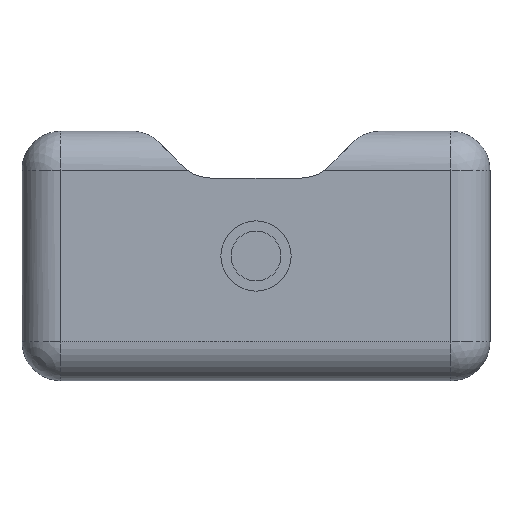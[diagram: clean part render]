
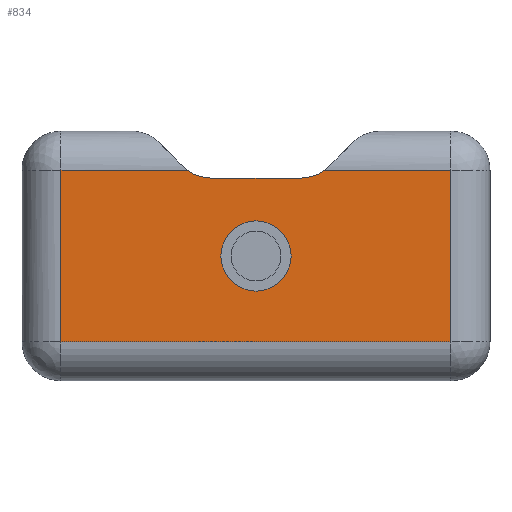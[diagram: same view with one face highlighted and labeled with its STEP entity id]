
A CAD part, front view. The second image highlights one B-rep face of the part: STEP entity #834.
In plain terms, the highlighted planar face has unit normal (0, -1, 0).
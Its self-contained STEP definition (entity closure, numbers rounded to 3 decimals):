
#158=CARTESIAN_POINT('',(12.75,-3.0,8.0));
#159=VERTEX_POINT('',#158);
#160=CARTESIAN_POINT('',(15.0,-3.0,8.0));
#161=DIRECTION('',(0.0,1.0,0.0));
#162=DIRECTION('',(1.0,0.0,0.0));
#163=AXIS2_PLACEMENT_3D('',#160,#161,#162);
#164=CIRCLE('',#163,2.25);
#165=EDGE_CURVE('',#159,#159,#164,.T.);
#323=CARTESIAN_POINT('',(19.404,-3.0,13.5));
#324=VERTEX_POINT('',#323);
#342=CARTESIAN_POINT('',(17.904,-3.0,13.));
#343=VERTEX_POINT('',#342);
#350=CARTESIAN_POINT('',(17.904,-3.0,15.5));
#351=DIRECTION('',(0.0,1.0,0.0));
#352=DIRECTION('',(0.,0.0,-1.0));
#353=AXIS2_PLACEMENT_3D('',#350,#351,#352);
#354=CIRCLE('',#353,2.5);
#355=EDGE_CURVE('',#324,#343,#354,.T.);
#365=CARTESIAN_POINT('',(12.096,-3.0,13.));
#366=VERTEX_POINT('',#365);
#367=CARTESIAN_POINT('',(17.904,-3.0,13.));
#368=DIRECTION('',(-1.0,0.0,0.0));
#369=VECTOR('',#368,5.808);
#370=LINE('',#367,#369);
#371=EDGE_CURVE('',#343,#366,#370,.T.);
#396=CARTESIAN_POINT('',(10.596,-3.0,13.5));
#397=VERTEX_POINT('',#396);
#405=CARTESIAN_POINT('',(12.096,-3.0,15.5));
#406=DIRECTION('',(0.0,1.0,0.0));
#407=DIRECTION('',(-0.707,0.0,-0.707));
#408=AXIS2_PLACEMENT_3D('',#405,#406,#407);
#409=CIRCLE('',#408,2.5);
#410=EDGE_CURVE('',#366,#397,#409,.T.);
#430=CARTESIAN_POINT('',(27.5,-3.0,13.5));
#431=VERTEX_POINT('',#430);
#432=CARTESIAN_POINT('',(27.5,-3.0,13.5));
#433=DIRECTION('',(-1.0,0.0,0.0));
#434=VECTOR('',#433,8.096);
#435=LINE('',#432,#434);
#436=EDGE_CURVE('',#431,#324,#435,.T.);
#474=CARTESIAN_POINT('',(2.5,-3.0,13.5));
#475=VERTEX_POINT('',#474);
#483=CARTESIAN_POINT('',(10.596,-3.0,13.5));
#484=DIRECTION('',(-1.0,0.0,0.0));
#485=VECTOR('',#484,8.096);
#486=LINE('',#483,#485);
#487=EDGE_CURVE('',#397,#475,#486,.T.);
#660=CARTESIAN_POINT('',(27.5,-3.0,2.5));
#661=VERTEX_POINT('',#660);
#722=CARTESIAN_POINT('',(2.5,-3.0,2.5));
#723=VERTEX_POINT('',#722);
#756=CARTESIAN_POINT('',(27.5,-3.0,2.5));
#757=DIRECTION('',(0.0,0.0,1.0));
#758=VECTOR('',#757,11.0);
#759=LINE('',#756,#758);
#760=EDGE_CURVE('',#661,#431,#759,.T.);
#785=CARTESIAN_POINT('',(2.5,-3.0,13.5));
#786=DIRECTION('',(0.0,0.0,-1.0));
#787=VECTOR('',#786,11.0);
#788=LINE('',#785,#787);
#789=EDGE_CURVE('',#475,#723,#788,.T.);
#800=CARTESIAN_POINT('',(2.5,-3.0,2.5));
#801=DIRECTION('',(1.0,0.0,0.0));
#802=VECTOR('',#801,25.0);
#803=LINE('',#800,#802);
#804=EDGE_CURVE('',#723,#661,#803,.T.);
#816=CARTESIAN_POINT('',(15.0,-3.0,8.0));
#817=DIRECTION('',(0.0,-1.0,0.0));
#818=DIRECTION('',(0.0,0.0,-1.0));
#819=AXIS2_PLACEMENT_3D('',#816,#817,#818);
#820=PLANE('',#819);
#821=ORIENTED_EDGE('',*,*,#410,.T.);
#822=ORIENTED_EDGE('',*,*,#487,.T.);
#823=ORIENTED_EDGE('',*,*,#789,.T.);
#824=ORIENTED_EDGE('',*,*,#804,.T.);
#825=ORIENTED_EDGE('',*,*,#760,.T.);
#826=ORIENTED_EDGE('',*,*,#436,.T.);
#827=ORIENTED_EDGE('',*,*,#355,.T.);
#828=ORIENTED_EDGE('',*,*,#371,.T.);
#829=EDGE_LOOP('',(#821,#822,#823,#824,#825,#826,#827,#828));
#830=FACE_OUTER_BOUND('',#829,.T.);
#831=ORIENTED_EDGE('',*,*,#165,.T.);
#832=EDGE_LOOP('',(#831));
#833=FACE_BOUND('',#832,.T.);
#834=ADVANCED_FACE('',(#830,#833),#820,.T.);
